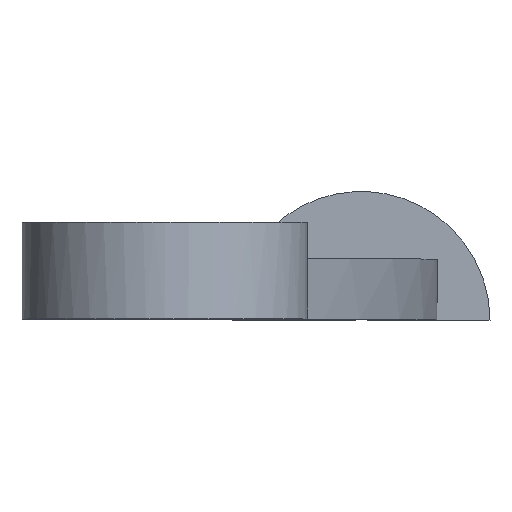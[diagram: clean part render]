
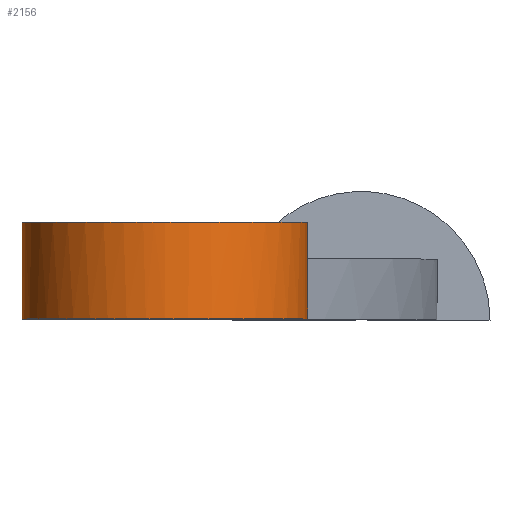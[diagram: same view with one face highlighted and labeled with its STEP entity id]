
A CAD part, top view. The second image highlights one B-rep face of the part: STEP entity #2156.
In plain terms, the highlighted cylindrical face has radius 40 mm (diameter 80 mm), a full revolution.
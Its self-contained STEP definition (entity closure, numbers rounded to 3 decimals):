
#11=DIRECTION('',(0.0,0.0,1.0));
#34=DIRECTION('',(0.0,1.0,0.0));
#598=CARTESIAN_POINT('',(220.0,67.0,355.0));
#599=CARTESIAN_POINT('',(180.0,67.0,355.0));
#600=CARTESIAN_POINT('',(180.0,67.0,315.0));
#601=CARTESIAN_POINT('',(180.0,67.0,275.0));
#602=CARTESIAN_POINT('',(220.0,67.0,275.0));
#603=(BOUNDED_CURVE()B_SPLINE_CURVE(2,(#602,#601,#600,#599,#598),.UNSPECIFIED.,.U.,.U.)B_SPLINE_CURVE_WITH_KNOTS((3,2,3),(0.0,0.5,1.0),.UNSPECIFIED.)CURVE()GEOMETRIC_REPRESENTATION_ITEM()RATIONAL_B_SPLINE_CURVE((1.0,0.707,1.0,0.707,1.0))REPRESENTATION_ITEM(''));
#604=VERTEX_POINT('',#598);
#605=VERTEX_POINT('',#602);
#606=EDGE_CURVE('',#605,#604,#603,.T.);
#608=CARTESIAN_POINT('',(260.0,67.0,275.0));
#609=CARTESIAN_POINT('',(260.0,67.0,315.0));
#610=CARTESIAN_POINT('',(260.0,67.0,355.0));
#611=(BOUNDED_CURVE()B_SPLINE_CURVE(2,(#598,#610,#609,#608,#602),.UNSPECIFIED.,.U.,.U.)B_SPLINE_CURVE_WITH_KNOTS((3,2,3),(0.0,0.5,1.0),.UNSPECIFIED.)CURVE()GEOMETRIC_REPRESENTATION_ITEM()RATIONAL_B_SPLINE_CURVE((1.0,0.707,1.0,0.707,1.0))REPRESENTATION_ITEM(''));
#612=EDGE_CURVE('',#604,#605,#611,.T.);
#621=VECTOR('',#34,27.0);
#1470=CARTESIAN_POINT('',(220.0,13.0,315.0));
#1869=CARTESIAN_POINT('',(253.932,40.0,293.819));
#2039=VERTEX_POINT('',#1869);
#2042=CARTESIAN_POINT('',(253.932,44.25,293.819));
#2043=CARTESIAN_POINT('',(253.932,48.5,293.819));
#2044=CARTESIAN_POINT('',(253.932,52.75,293.819));
#2045=CARTESIAN_POINT('',(253.932,57.0,293.819));
#2046=B_SPLINE_CURVE_WITH_KNOTS('',4,(#2045,#2044,#2043,#2042,#1869),.UNSPECIFIED.,.U.,.U.,(5,5),(0.0,1.0),.UNSPECIFIED.);
#2047=VERTEX_POINT('',#2045);
#2048=EDGE_CURVE('',#2047,#2039,#2046,.T.);
#2095=CARTESIAN_POINT('',(226.37,57.0,275.51));
#2096=CARTESIAN_POINT('',(244.31,57.0,278.404));
#2097=(BOUNDED_CURVE()B_SPLINE_CURVE(2,(#2045,#2096,#2095),.UNSPECIFIED.,.U.,.U.)B_SPLINE_CURVE_WITH_KNOTS((3,3),(0.0,1.0),.UNSPECIFIED.)CURVE()GEOMETRIC_REPRESENTATION_ITEM()RATIONAL_B_SPLINE_CURVE((1.0,0.91,1.0))REPRESENTATION_ITEM(''));
#2098=VERTEX_POINT('',#2095);
#2099=EDGE_CURVE('',#2047,#2098,#2097,.T.);
#2120=AXIS2_PLACEMENT_3D('',#1470,#34,#11);
#2121=CYLINDRICAL_SURFACE('',#2120,40.0);
#2122=CARTESIAN_POINT('',(226.37,40.0,275.51));
#2123=CARTESIAN_POINT('',(226.37,44.25,275.51));
#2124=CARTESIAN_POINT('',(226.37,48.5,275.51));
#2125=CARTESIAN_POINT('',(226.37,52.75,275.51));
#2126=B_SPLINE_CURVE_WITH_KNOTS('',4,(#2095,#2125,#2124,#2123,#2122),.UNSPECIFIED.,.U.,.U.,(5,5),(0.0,1.0),.UNSPECIFIED.);
#2127=VERTEX_POINT('',#2122);
#2128=EDGE_CURVE('',#2098,#2127,#2126,.T.);
#2129=ORIENTED_EDGE('',*,*,#2128,.T.);
#2130=ORIENTED_EDGE('',*,*,#2099,.T.);
#2131=ORIENTED_EDGE('',*,*,#2048,.F.);
#2132=CARTESIAN_POINT('',(266.405,40.,313.801));
#2133=CARTESIAN_POINT('',(254.98,40.0,334.401));
#2134=CARTESIAN_POINT('',(243.555,40.,355.0));
#2135=CARTESIAN_POINT('',(220.0,40.0,355.0));
#2136=(BOUNDED_CURVE()B_SPLINE_CURVE(2,(#2135,#2134,#2133,#2132,#1869),.UNSPECIFIED.,.U.,.U.)B_SPLINE_CURVE_WITH_KNOTS((3,2,3),(0.0,0.5,1.0),.UNSPECIFIED.)CURVE()GEOMETRIC_REPRESENTATION_ITEM()RATIONAL_B_SPLINE_CURVE((1.0,0.862,1.0,0.862,1.0))REPRESENTATION_ITEM(''));
#2137=VERTEX_POINT('',#2135);
#2138=EDGE_CURVE('',#2137,#2039,#2136,.T.);
#2139=ORIENTED_EDGE('',*,*,#2138,.T.);
#2140=LINE('',#2135,#621);
#2141=EDGE_CURVE('',#2137,#604,#2140,.T.);
#2142=ORIENTED_EDGE('',*,*,#2141,.F.);
#2143=ORIENTED_EDGE('',*,*,#612,.F.);
#2144=ORIENTED_EDGE('',*,*,#606,.F.);
#2145=ORIENTED_EDGE('',*,*,#2141,.T.);
#2146=CARTESIAN_POINT('',(195.462,40.0,355.0));
#2147=CARTESIAN_POINT('',(184.343,40.0,333.126));
#2148=CARTESIAN_POINT('',(173.223,40.0,311.252));
#2149=CARTESIAN_POINT('',(187.684,40.0,291.427));
#2150=CARTESIAN_POINT('',(202.145,40.0,271.603));
#2151=(BOUNDED_CURVE()B_SPLINE_CURVE(2,(#2122,#2150,#2149,#2148,#2147,#2146,#2135),.UNSPECIFIED.,.U.,.U.)B_SPLINE_CURVE_WITH_KNOTS((3,2,2,3),(0.0,0.333,0.667,1.0),.UNSPECIFIED.)CURVE()GEOMETRIC_REPRESENTATION_ITEM()RATIONAL_B_SPLINE_CURVE((1.0,0.852,1.0,0.852,1.0,0.852,1.0))REPRESENTATION_ITEM(''));
#2152=EDGE_CURVE('',#2127,#2137,#2151,.T.);
#2153=ORIENTED_EDGE('',*,*,#2152,.T.);
#2154=EDGE_LOOP('',(#2153,#2145,#2144,#2143,#2142,#2139,#2131,#2130,#2129));
#2155=FACE_BOUND('',#2154,.T.);
#2156=ADVANCED_FACE('',(#2155),#2121,.T.);
